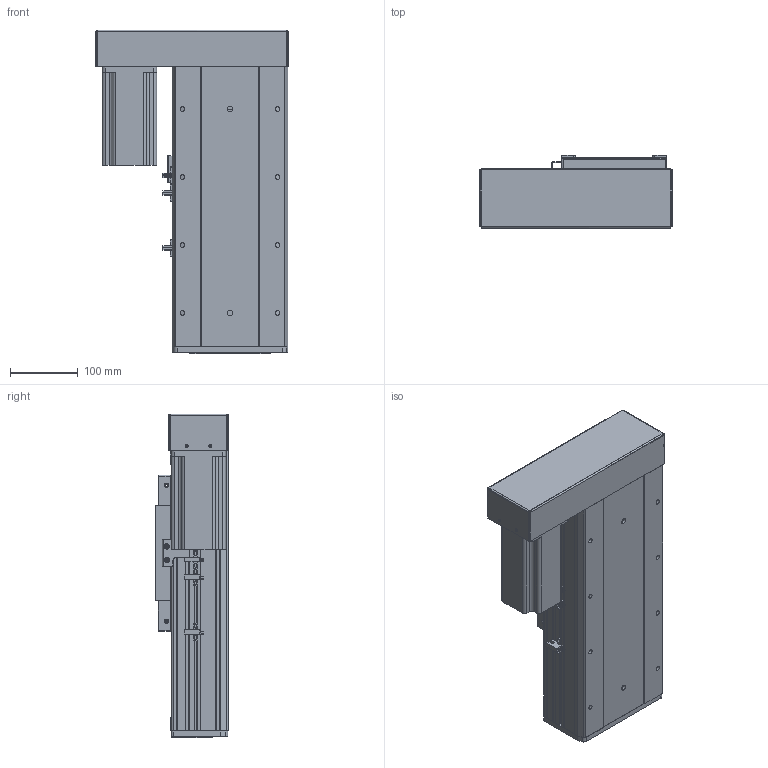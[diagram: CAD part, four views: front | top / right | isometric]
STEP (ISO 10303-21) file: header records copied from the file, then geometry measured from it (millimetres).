
FILE_DESCRIPTION (( 'STEP AP203' ), '1' );
FILE_NAME ('RY170F-L2020-300-LK.SLDASM_100.step', '2021-03-02T09:00:12', ( '盈信电脑' ), ( '东莞市道滘镇水果街19号' ), 'SwSTEP 2.0', 'SolidWorks 2012', '' );
FILE_SCHEMA (( 'CONFIG_CONTROL_DESIGN' ));
Length unit declared in the file: millimetre
Products named in the file (20): RY170F酘衵殏萇儂欶; RY170F-酘衵殏萇儂釱; RY170F-蛌殏萇儂假蚾啣; 怢湛750W萇儂ㄗ80遺ㄘ; RY170F-L2020-300-LK.SLDASM_100; 滅袉蝶18-24; RY170F-詩湍揤踡輸; RY170F-揤踡謫假蚾粣; 侐源滅袉蝶; RY170F-綴裔啣; 覜茼ん672; RY170F俋离覜茼え; RY170F-丝杆铝滑块连接板; RY170F-300眻蟀倰第奻裔啣-LK_100; RY100F-詩湍揤踡謫; 滅袉蝶18-10; RY170F-300眻蟀祥凄詩湍-LK_100; RY170F-佪裝臏賑輸20蹟譫; RY170F-300眻蟀倰第菁釱-LK_100; RY170F-滅鳥奻裔
Assembly tree (24 placements, depth 2):
  RY170F-L2020-300-LK.SLDASM_100
    RY170F-滅鳥奻裔
    RY170F-300眻蟀祥凄詩湍-LK_100
    RY170F-300眻蟀倰第菁釱-LK_100
    RY170F-佪裝臏賑輸20蹟譫
    RY170F-丝杆铝滑块连接板
    RY170F-300眻蟀倰第奻裔啣-LK_100  x2
    滅袉蝶18-10
    RY100F-詩湍揤踡謫
    RY170F-綴裔啣
    覜茼ん672  x3
    RY170F俋离覜茼え
    RY170F-揤踡謫假蚾粣
    RY170F-詩湍揤踡輸  x2
    滅袉蝶18-24
    侐源滅袉蝶  x2
    RY170F-酘衵殏萇儂釱
    RY170F-蛌殏萇儂假蚾啣
    怢湛750W萇儂ㄗ80遺ㄘ
    RY170F酘衵殏萇儂欶
Bounding box: 283 x 107 x 476 mm (x, y, z)
Volume: 4227380.5 mm3; surface area: 1233367.3 mm2
Topology: 24 solids, 24 shells, 1761 faces, 4894 edges, 3124 vertices
Faces by surface type: cylinder 821, plane 760, cone 172, bspline 8
Entity records: 50495 total; most frequent: CARTESIAN_POINT 10280, DIRECTION 8107, ORIENTED_EDGE 7792, EDGE_CURVE 3896, AXIS2_PLACEMENT_3D 2901, VERTEX_POINT 2544, LINE 2305, VECTOR 2305
